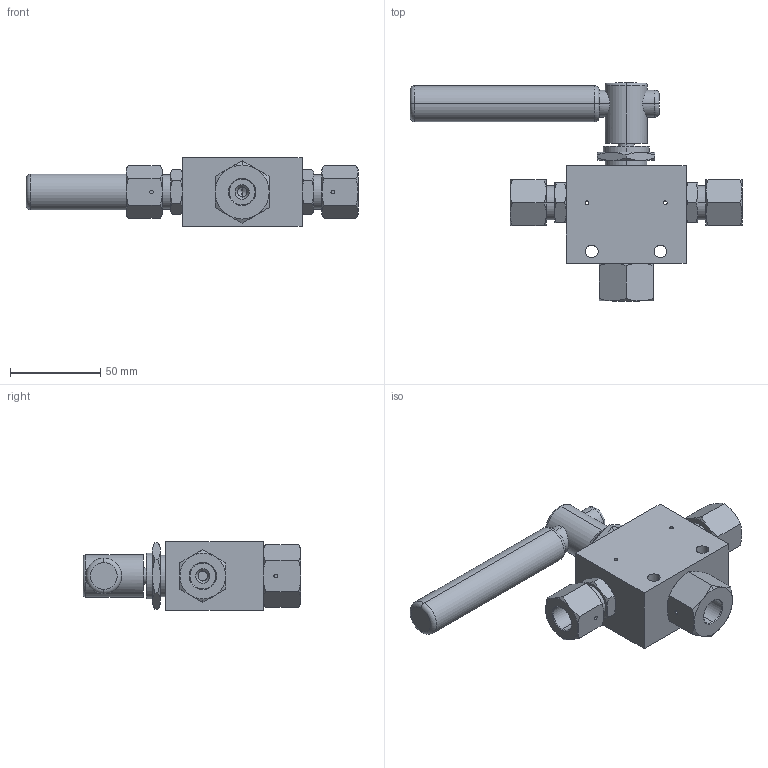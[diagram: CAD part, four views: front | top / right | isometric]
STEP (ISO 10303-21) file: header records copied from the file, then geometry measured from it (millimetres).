
FILE_DESCRIPTION (( 'STEP AP203' ), '1' );
FILE_NAME ('BV2003S06-3-180.STEP', '2022-03-31T10:07:24', ( '' ), ( '' ), 'SwSTEP 2.0', 'SolidWorks 2020', '' );
FILE_SCHEMA (( 'CONFIG_CONTROL_DESIGN' ));
Length unit declared in the file: millimetre
Products named in the file (1): BV2003S06-3-180
Bounding box: 184.33 x 121 x 38 mm (x, y, z)
Volume: 226776 mm3; surface area: 42001.4 mm2
Topology: 1 solids, 1 shells, 221 faces, 486 edges, 283 vertices
Faces by surface type: cone 104, plane 61, cylinder 48, torus 8
Entity records: 6831 total; most frequent: CARTESIAN_POINT 2075, DIRECTION 968, ORIENTED_EDGE 960, EDGE_CURVE 480, AXIS2_PLACEMENT_3D 420, VERTEX_POINT 283, EDGE_LOOP 257, FACE_OUTER_BOUND 221
